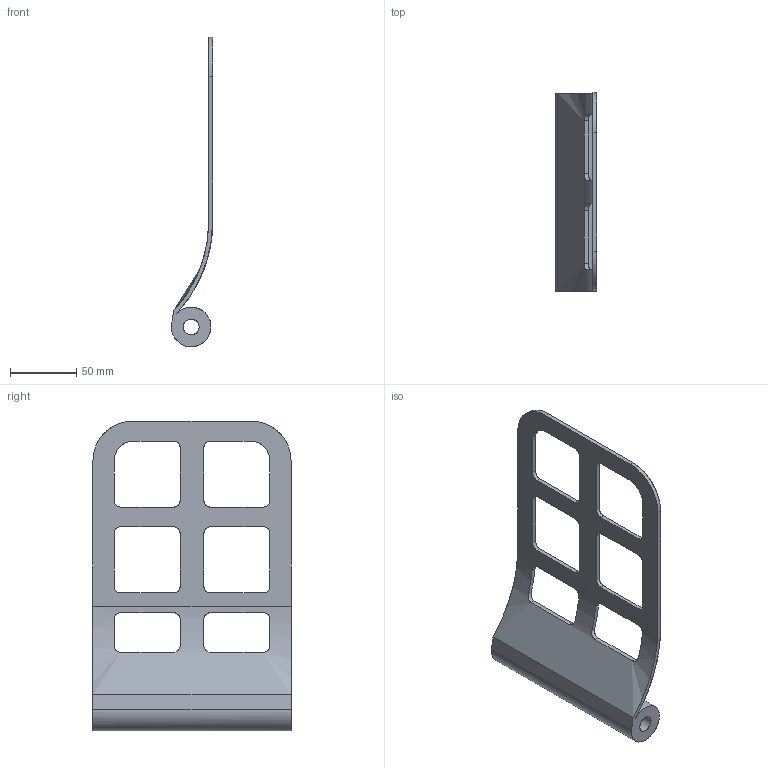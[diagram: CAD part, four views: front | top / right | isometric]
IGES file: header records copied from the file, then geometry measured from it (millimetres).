
Start section: C
Global section: file name: Pedal-Pad.igs; native system: By Siemens PLM Incorporated; preprocessor: XPlus GENERIC/IGES 18.0.17; author: Author; organization: Title; date: 20150807.150632; units: millimetre
Bounding box: 31.29 x 150 x 234.45 mm (x, y, z)
Surface area: 64089.9 mm2 (no closed solid volume)
Topology: 0 solids, 0 shells, 61 faces, 362 edges, 362 vertices
Faces by surface type: bspline 61
